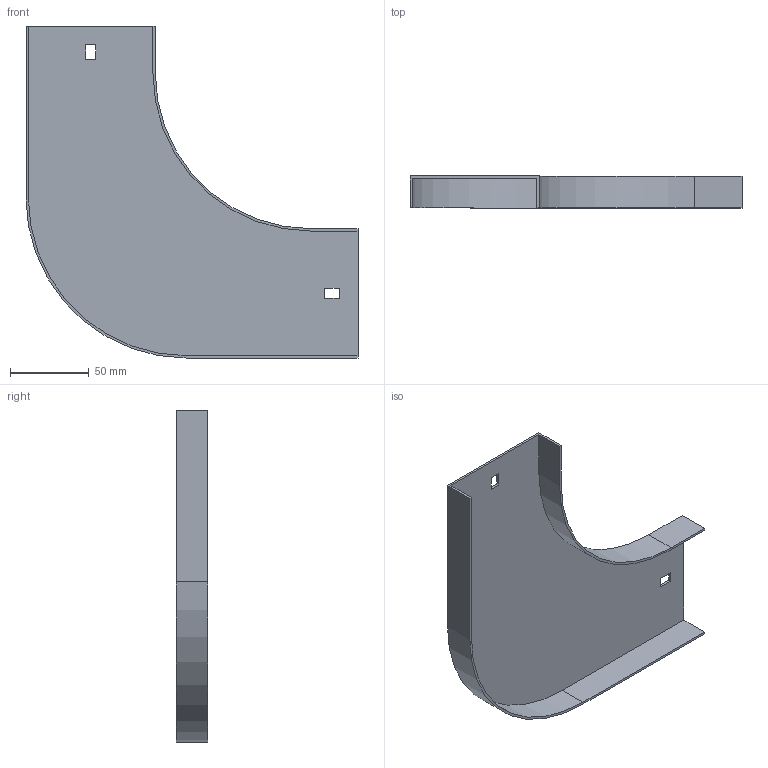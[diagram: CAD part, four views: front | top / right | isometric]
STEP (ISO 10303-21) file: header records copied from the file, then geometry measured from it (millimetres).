
FILE_DESCRIPTION (( 'STEP AP214' ), '1' );
FILE_NAME ('10G1P075.step', '2025-02-21T12:46:18', ( '' ), ( '' ), 'SwSTEP 2.0', 'SolidWorks 2023', '' );
FILE_SCHEMA (( 'AUTOMOTIVE_DESIGN' ));
Length unit declared in the file: millimetre
Products named in the file (1): 10G1P075
Bounding box: 210.5 x 20 x 210.5 mm (x, y, z)
Volume: 57760.8 mm3; surface area: 78352.6 mm2
Topology: 1 solids, 1 shells, 26 faces, 72 edges, 48 vertices
Faces by surface type: plane 22, cylinder 4
Entity records: 855 total; most frequent: CARTESIAN_POINT 147, ORIENTED_EDGE 144, DIRECTION 134, EDGE_CURVE 72, VECTOR 64, LINE 64, VERTEX_POINT 48, AXIS2_PLACEMENT_3D 35
